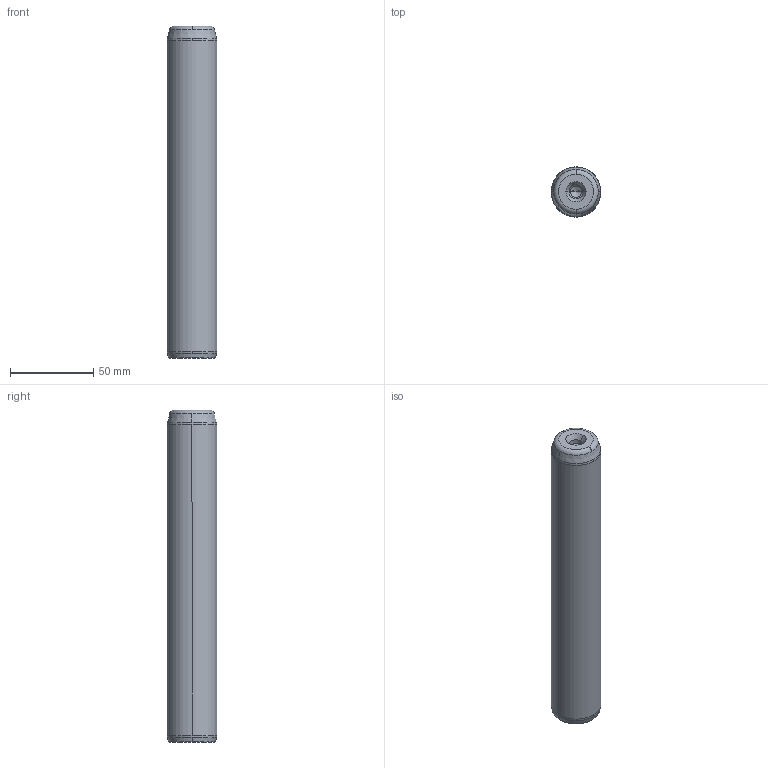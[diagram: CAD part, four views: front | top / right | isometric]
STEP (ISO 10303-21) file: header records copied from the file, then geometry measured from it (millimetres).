
FILE_DESCRIPTION((''),'2;1');
FILE_NAME('P10_030_200.stp','2008-12-23T14:59:51',(''),(''),'Mechanical Desktop 2009','Mechanical Desktop 2009',', , ');
FILE_SCHEMA(('CONFIG_CONTROL_DESIGN'));
Length unit declared in the file: millimetre
Products named in the file (5): Product; ProductAA; blmdl1; ProductA; blmdl1A
Assembly tree (2 placements, depth 3):
  Product
    ProductAA
      blmdl1
  ProductA
  blmdl1A
Bounding box: 30 x 30 x 200 mm (x, y, z)
Volume: 139217.9 mm3; surface area: 20432.3 mm2
Topology: 1 solids, 1 shells, 26 faces, 66 edges, 41 vertices
Faces by surface type: cone 10, torus 8, cylinder 6, plane 2
Entity records: 1012 total; most frequent: DIRECTION 170, CARTESIAN_POINT 134, ORIENTED_EDGE 128, AXIS2_PLACEMENT_3D 77, EDGE_CURVE 64, CIRCLE 48, VERTEX_POINT 41, EDGE_LOOP 27
